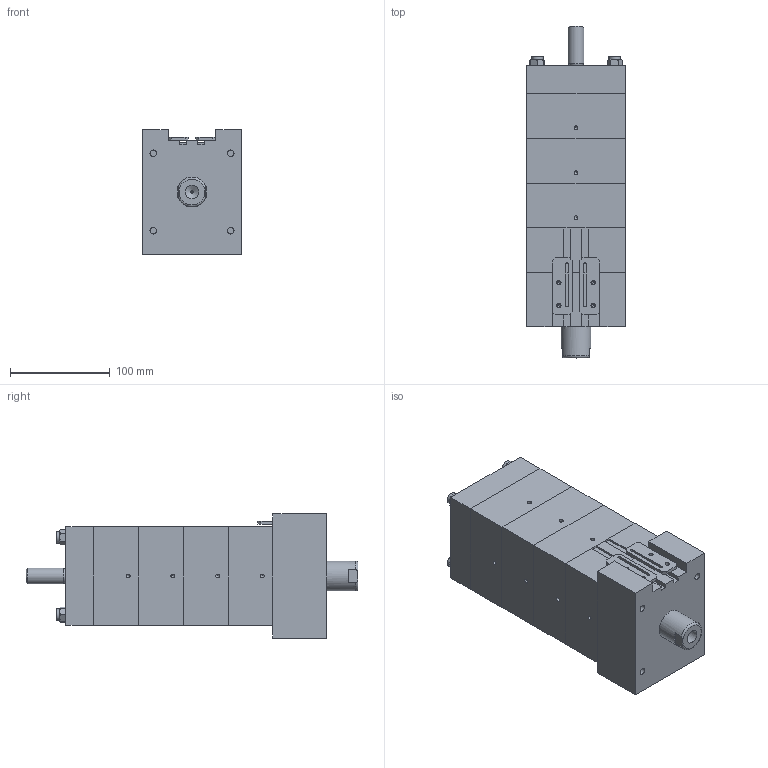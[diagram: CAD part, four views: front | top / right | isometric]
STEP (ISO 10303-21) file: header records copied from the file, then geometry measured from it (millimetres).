
FILE_DESCRIPTION((''),'2;1');
FILE_NAME('C:\VaultWork\Zeichnungen\Maßblätter\Multizylinder\M 90\M90-20\M01722-4-0 Multizylinder M90-5-20 Sonder.stp','2013-01-18T10:51:45',('Sergeew'),(''),'Autodesk Inventor 2012','Autodesk Inventor 2012','');
FILE_SCHEMA(('AUTOMOTIVE_DESIGN { 1 0 10303 214 1 1 1 1 }'));
Length unit declared in the file: millimetre
Products named in the file (1): M01722-4-0 Multizylinder M90-5-20 Sonder
Bounding box: 99 x 333.5 x 125 mm (x, y, z)
Volume: 2696411.3 mm3; surface area: 158386.7 mm2
Topology: 1 solids, 5 shells, 245 faces, 587 edges, 368 vertices
Faces by surface type: plane 132, cylinder 60, cone 51, torus 2
Full cylindrical faces by diameter (mm): 3 x2, 3.242 x4, 4 x15, 4.3 x4, 5 x6, 6.647 x4, 8 x4, 8.566 x6, 9 x4, 11.6 x4, 13.835 x1, 16 x1, 30 x1
Entity records: 6132 total; most frequent: CARTESIAN_POINT 1128, DIRECTION 1016, ORIENTED_EDGE 852, EDGE_CURVE 426, AXIS2_PLACEMENT_3D 394, EDGE_LOOP 386, VERTEX_POINT 316, FACE_OUTER_BOUND 245
